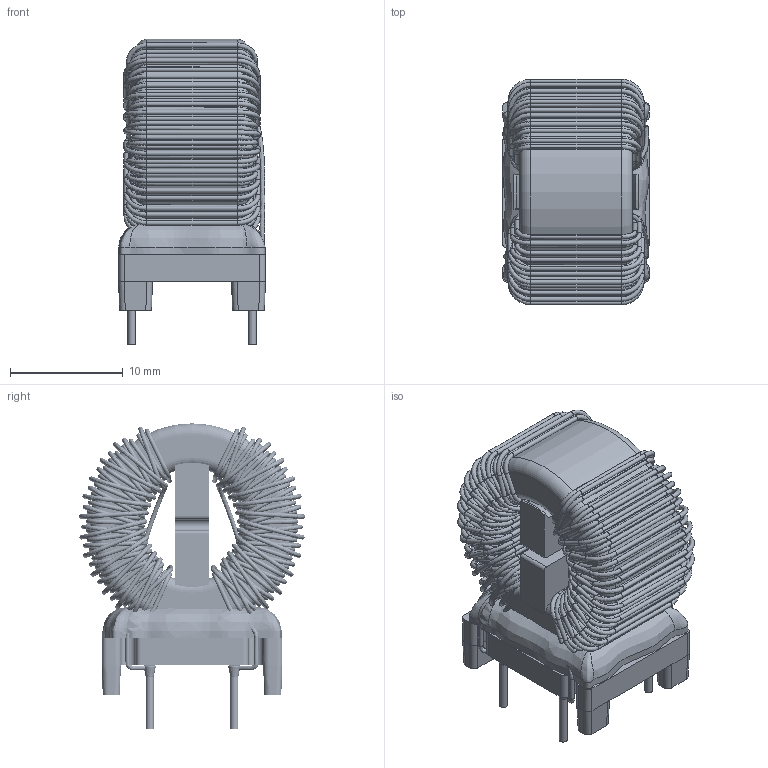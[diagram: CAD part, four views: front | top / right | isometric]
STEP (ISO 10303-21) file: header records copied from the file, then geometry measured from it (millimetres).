
FILE_DESCRIPTION(/* description */ ('Unknown'),/* implementation_level */ '2;1');
FILE_NAME(/* name */ 'L_Wurth_WE-CMB-M_L23W13.8H25.5',/* time_stamp */ '2024-10-11T14:37:48+08:00',/* author */ ('Unknown'),/* organization */ ('Unknown'),/* preprocessor_version */ 'ST-DEVELOPER v16.7',/* originating_system */ 'Solid Edge',/* authorisation */ 'Unknown');
FILE_SCHEMA (('AUTOMOTIVE_DESIGN {1 0 10303 214 3 1 1}'));
Length unit declared in the file: millimetre
Products named in the file (2): L_Wurth_WE-CMB-M_L23W13.8H25.5
Assembly tree (1 placements, depth 2):
  L_Wurth_WE-CMB-M_L23W13.8H25.5
    L_Wurth_WE-CMB-M_L23W13.8H25.5
Bounding box: 13 x 20 x 27.05 mm (x, y, z)
Volume: 3096.4 mm3; surface area: 6537.4 mm2
Topology: 9 solids, 10 shells, 1045 faces, 2585 edges, 1474 vertices
Faces by surface type: cylinder 486, bspline 248, torus 202, plane 98, cone 10, sphere 1
Full cylindrical faces by diameter (mm): 0.4 x402, 0.7 x4, 10 x1, 18 x1
Entity records: 67725 total; most frequent: CARTESIAN_POINT 45481, DIRECTION 3519, ORIENTED_EDGE 2892, EDGE_LOOP 1941, FACE_BOUND 1941, AXIS2_PLACEMENT_3D 1640, EDGE_CURVE 1446, VERTEX_POINT 1231
